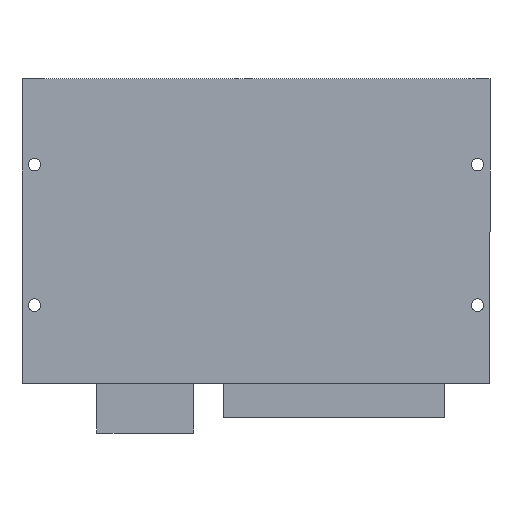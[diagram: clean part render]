
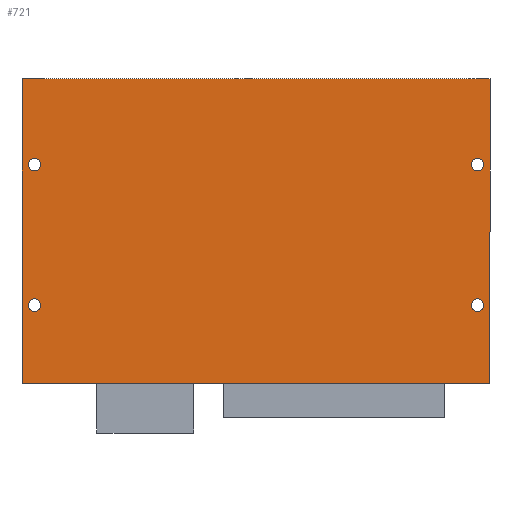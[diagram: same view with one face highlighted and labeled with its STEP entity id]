
A CAD part, front view. The second image highlights one B-rep face of the part: STEP entity #721.
In plain terms, the highlighted planar face has unit normal (0, -1, 0).
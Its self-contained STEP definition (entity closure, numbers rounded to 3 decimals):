
#7 = PLANE ( 'NONE',  #846 ) ;
#9 = EDGE_CURVE ( 'NONE', #67, #1048, #1256, .T. ) ;
#19 = DIRECTION ( 'NONE',  ( 0., 1., 0. ) ) ;
#21 = DIRECTION ( 'NONE',  ( 0., 0., 1. ) ) ;
#34 = ORIENTED_EDGE ( 'NONE', *, *, #473, .T. ) ;
#53 = EDGE_CURVE ( 'NONE', #1236, #293, #1240, .T. ) ;
#58 = EDGE_CURVE ( 'NONE', #648, #974, #1232, .T. ) ;
#62 = CIRCLE ( 'NONE', #580, 2. ) ;
#67 = VERTEX_POINT ( 'NONE', #1196 ) ;
#79 = CARTESIAN_POINT ( 'NONE',  ( 75., 0., 48.75 ) ) ;
#87 = EDGE_LOOP ( 'NONE', ( #353, #220 ) ) ;
#92 = CARTESIAN_POINT ( 'NONE',  ( 71., 0., -23.75 ) ) ;
#93 = EDGE_LOOP ( 'NONE', ( #778, #1106 ) ) ;
#99 = DIRECTION ( 'NONE',  ( 0., 1., 0. ) ) ;
#104 = DIRECTION ( 'NONE',  ( 0., 0., 1. ) ) ;
#116 = CARTESIAN_POINT ( 'NONE',  ( 75., 0., -48.75 ) ) ;
#118 = CARTESIAN_POINT ( 'NONE',  ( -71., 0., 21.25 ) ) ;
#154 = VECTOR ( 'NONE', #224, 1000. ) ;
#158 = CARTESIAN_POINT ( 'NONE',  ( -71., 0., -25.75 ) ) ;
#172 = EDGE_CURVE ( 'NONE', #799, #805, #1084, .T. ) ;
#184 = ORIENTED_EDGE ( 'NONE', *, *, #9, .T. ) ;
#197 = CARTESIAN_POINT ( 'NONE',  ( -71., 0., -23.75 ) ) ;
#201 = DIRECTION ( 'NONE',  ( 0., 1., 0. ) ) ;
#206 = DIRECTION ( 'NONE',  ( 0., 0., 1. ) ) ;
#207 = LINE ( 'NONE', #251, #154 ) ;
#220 = ORIENTED_EDGE ( 'NONE', *, *, #53, .T. ) ;
#224 = DIRECTION ( 'NONE',  ( -1., 0., 0. ) ) ;
#227 = CIRCLE ( 'NONE', #588, 2. ) ;
#235 = ORIENTED_EDGE ( 'NONE', *, *, #172, .F. ) ;
#250 = CARTESIAN_POINT ( 'NONE',  ( 71., 0., -25.75 ) ) ;
#251 = CARTESIAN_POINT ( 'NONE',  ( -75., 0., -48.75 ) ) ;
#256 = EDGE_LOOP ( 'NONE', ( #184, #330 ) ) ;
#293 = VERTEX_POINT ( 'NONE', #1107 ) ;
#299 = CIRCLE ( 'NONE', #657, 2. ) ;
#330 = ORIENTED_EDGE ( 'NONE', *, *, #1272, .T. ) ;
#332 = ORIENTED_EDGE ( 'NONE', *, *, #380, .F. ) ;
#334 = VERTEX_POINT ( 'NONE', #1067 ) ;
#336 = CARTESIAN_POINT ( 'NONE',  ( 71., 0., 21.25 ) ) ;
#340 = DIRECTION ( 'NONE',  ( 0., 1., 0. ) ) ;
#342 = DIRECTION ( 'NONE',  ( 0., 0., 1. ) ) ;
#353 = ORIENTED_EDGE ( 'NONE', *, *, #765, .T. ) ;
#367 = DIRECTION ( 'NONE',  ( 0., 0., -1. ) ) ;
#376 = EDGE_LOOP ( 'NONE', ( #34, #1129 ) ) ;
#380 = EDGE_CURVE ( 'NONE', #651, #799, #848, .T. ) ;
#407 = VECTOR ( 'NONE', #868, 1000. ) ;
#419 = VERTEX_POINT ( 'NONE', #1069 ) ;
#429 = LINE ( 'NONE', #942, #407 ) ;
#467 = DIRECTION ( 'NONE',  ( 0., 0., 1. ) ) ;
#473 = EDGE_CURVE ( 'NONE', #334, #419, #771, .T. ) ;
#482 = DIRECTION ( 'NONE',  ( 0., 0., 1. ) ) ;
#523 = ORIENTED_EDGE ( 'NONE', *, *, #1031, .F. ) ;
#539 = CIRCLE ( 'NONE', #824, 2. ) ;
#543 = FACE_OUTER_BOUND ( 'NONE', #549, .T. ) ;
#544 = FACE_BOUND ( 'NONE', #93, .T. ) ;
#549 = EDGE_LOOP ( 'NONE', ( #235, #332, #523, #1152 ) ) ;
#560 = FACE_BOUND ( 'NONE', #256, .T. ) ;
#563 = FACE_BOUND ( 'NONE', #376, .T. ) ;
#566 = VERTEX_POINT ( 'NONE', #1159 ) ;
#571 = FACE_BOUND ( 'NONE', #87, .T. ) ;
#580 = AXIS2_PLACEMENT_3D ( 'NONE', #336, #340, #342 ) ;
#585 = DIRECTION ( 'NONE',  ( 0., 1., 0. ) ) ;
#588 = AXIS2_PLACEMENT_3D ( 'NONE', #197, #201, #206 ) ;
#648 = VERTEX_POINT ( 'NONE', #1049 ) ;
#651 = VERTEX_POINT ( 'NONE', #1005 ) ;
#657 = AXIS2_PLACEMENT_3D ( 'NONE', #734, #743, #1189 ) ;
#721 = ADVANCED_FACE ( 'NONE', ( #571, #563, #560, #544, #543 ), #7, .F. ) ;
#734 = CARTESIAN_POINT ( 'NONE',  ( -71., 0., 21.25 ) ) ;
#743 = DIRECTION ( 'NONE',  ( 0., 1., 0. ) ) ;
#765 = EDGE_CURVE ( 'NONE', #293, #1236, #539, .T. ) ;
#771 = CIRCLE ( 'NONE', #1023, 2. ) ;
#774 = CARTESIAN_POINT ( 'NONE',  ( 71., 0., -23.75 ) ) ;
#778 = ORIENTED_EDGE ( 'NONE', *, *, #58, .T. ) ;
#799 = VERTEX_POINT ( 'NONE', #79 ) ;
#805 = VERTEX_POINT ( 'NONE', #116 ) ;
#813 = DIRECTION ( 'NONE',  ( 0., 1., 0. ) ) ;
#824 = AXIS2_PLACEMENT_3D ( 'NONE', #92, #99, #104 ) ;
#846 = AXIS2_PLACEMENT_3D ( 'NONE', #890, #19, #21 ) ;
#848 = LINE ( 'NONE', #965, #851 ) ;
#851 = VECTOR ( 'NONE', #873, 1000. ) ;
#868 = DIRECTION ( 'NONE',  ( 0., 0., 1. ) ) ;
#873 = DIRECTION ( 'NONE',  ( 1., 0., 0. ) ) ;
#890 = CARTESIAN_POINT ( 'NONE',  ( 0., 0., 0. ) ) ;
#891 = DIRECTION ( 'NONE',  ( 0., 1., 0. ) ) ;
#942 = CARTESIAN_POINT ( 'NONE',  ( -75., 0., -48.75 ) ) ;
#965 = CARTESIAN_POINT ( 'NONE',  ( -75., 0., 48.75 ) ) ;
#974 = VERTEX_POINT ( 'NONE', #158 ) ;
#1005 = CARTESIAN_POINT ( 'NONE',  ( -75., 0., 48.75 ) ) ;
#1023 = AXIS2_PLACEMENT_3D ( 'NONE', #118, #585, #482 ) ;
#1028 = CARTESIAN_POINT ( 'NONE',  ( 71., 0., 19.25 ) ) ;
#1031 = EDGE_CURVE ( 'NONE', #566, #651, #429, .T. ) ;
#1048 = VERTEX_POINT ( 'NONE', #1028 ) ;
#1049 = CARTESIAN_POINT ( 'NONE',  ( -71., 0., -21.75 ) ) ;
#1067 = CARTESIAN_POINT ( 'NONE',  ( -71., 0., 23.25 ) ) ;
#1069 = CARTESIAN_POINT ( 'NONE',  ( -71., 0., 19.25 ) ) ;
#1074 = VECTOR ( 'NONE', #367, 1000. ) ;
#1084 = LINE ( 'NONE', #1105, #1074 ) ;
#1105 = CARTESIAN_POINT ( 'NONE',  ( 75., 0., -48.75 ) ) ;
#1106 = ORIENTED_EDGE ( 'NONE', *, *, #1216, .T. ) ;
#1107 = CARTESIAN_POINT ( 'NONE',  ( 71., 0., -21.75 ) ) ;
#1120 = DIRECTION ( 'NONE',  ( 0., 0., 1. ) ) ;
#1129 = ORIENTED_EDGE ( 'NONE', *, *, #1195, .T. ) ;
#1135 = CARTESIAN_POINT ( 'NONE',  ( 71., 0., 21.25 ) ) ;
#1152 = ORIENTED_EDGE ( 'NONE', *, *, #1235, .F. ) ;
#1153 = DIRECTION ( 'NONE',  ( 0., 1., 0. ) ) ;
#1159 = CARTESIAN_POINT ( 'NONE',  ( -75., 0., -48.75 ) ) ;
#1179 = CARTESIAN_POINT ( 'NONE',  ( -71., 0., -23.75 ) ) ;
#1182 = AXIS2_PLACEMENT_3D ( 'NONE', #1179, #891, #1245 ) ;
#1183 = AXIS2_PLACEMENT_3D ( 'NONE', #774, #813, #467 ) ;
#1188 = AXIS2_PLACEMENT_3D ( 'NONE', #1135, #1153, #1120 ) ;
#1189 = DIRECTION ( 'NONE',  ( 0., 0., 1. ) ) ;
#1195 = EDGE_CURVE ( 'NONE', #419, #334, #299, .T. ) ;
#1196 = CARTESIAN_POINT ( 'NONE',  ( 71., 0., 23.25 ) ) ;
#1216 = EDGE_CURVE ( 'NONE', #974, #648, #227, .T. ) ;
#1232 = CIRCLE ( 'NONE', #1182, 2. ) ;
#1235 = EDGE_CURVE ( 'NONE', #805, #566, #207, .T. ) ;
#1236 = VERTEX_POINT ( 'NONE', #250 ) ;
#1240 = CIRCLE ( 'NONE', #1183, 2. ) ;
#1245 = DIRECTION ( 'NONE',  ( 0., 0., 1. ) ) ;
#1256 = CIRCLE ( 'NONE', #1188, 2. ) ;
#1272 = EDGE_CURVE ( 'NONE', #1048, #67, #62, .T. ) ;
